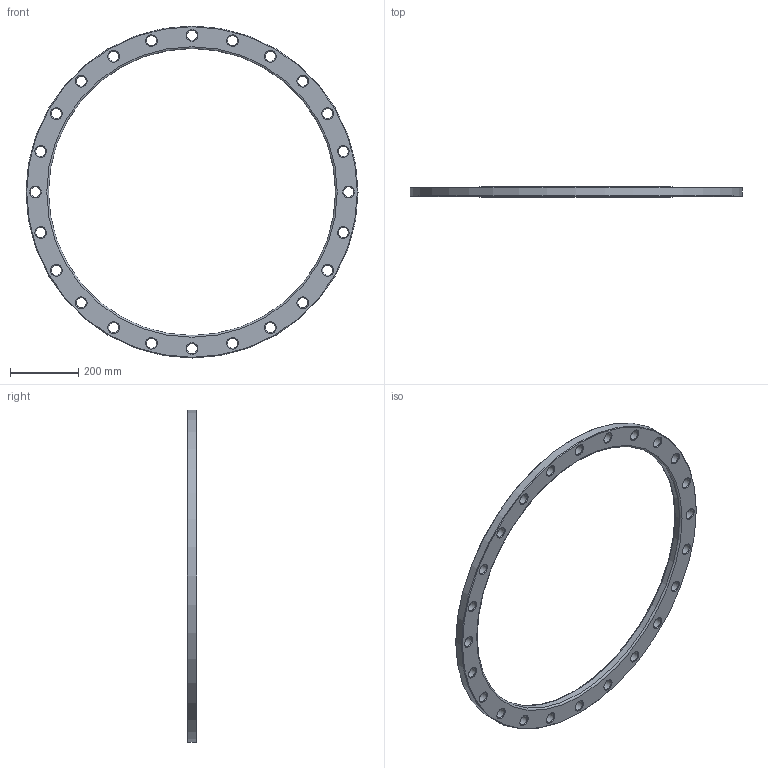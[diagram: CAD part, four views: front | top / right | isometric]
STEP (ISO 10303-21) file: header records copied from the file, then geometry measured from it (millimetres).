
FILE_DESCRIPTION(/* description */ ('Unknown'),/* implementation_level */ '2;1');
FILE_NAME(/* name */ 'FZ800A',/* time_stamp */ '2021-03-15T09:25:26+01:00',/* author */ ('Unknown'),/* organization */ ('Unknown'),/* preprocessor_version */ 'ST-DEVELOPER v16.7',/* originating_system */ 'Solid Edge',/* authorisation */ 'Unknown');
FILE_SCHEMA (('AUTOMOTIVE_DESIGN {1 0 10303 214 3 1 1}'));
Length unit declared in the file: millimetre
Products named in the file (1): FZ800A
Bounding box: 975 x 28 x 975 mm (x, y, z)
Volume: 4752161.2 mm3; surface area: 542695.9 mm2
Topology: 1 solids, 1 shells, 80 faces, 254 edges, 176 vertices
Faces by surface type: cone 50, cylinder 26, plane 2, torus 2
Full cylindrical faces by diameter (mm): 30 x24, 843 x1, 975 x1
Entity records: 1974 total; most frequent: DIRECTION 370, CARTESIAN_POINT 289, ORIENTED_EDGE 208, EDGE_LOOP 208, FACE_BOUND 208, AXIS2_PLACEMENT_3D 185, EDGE_CURVE 104, VERTEX_POINT 104
